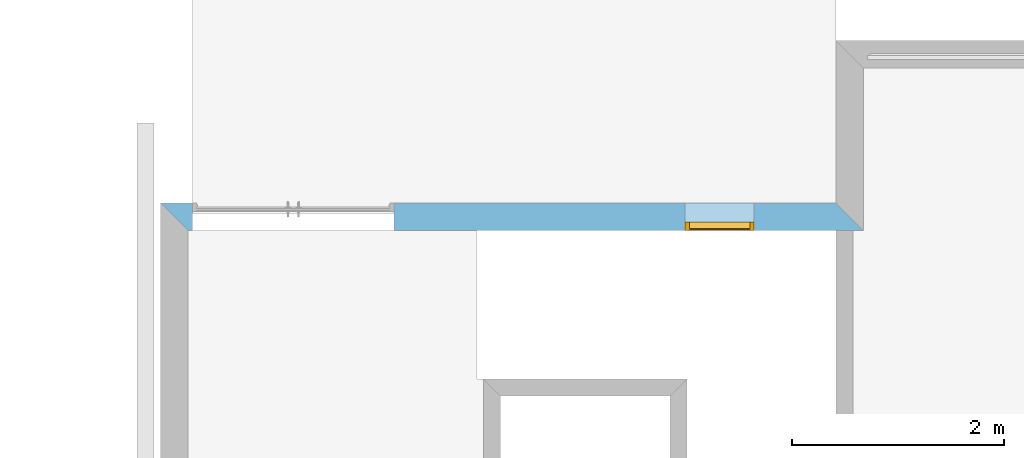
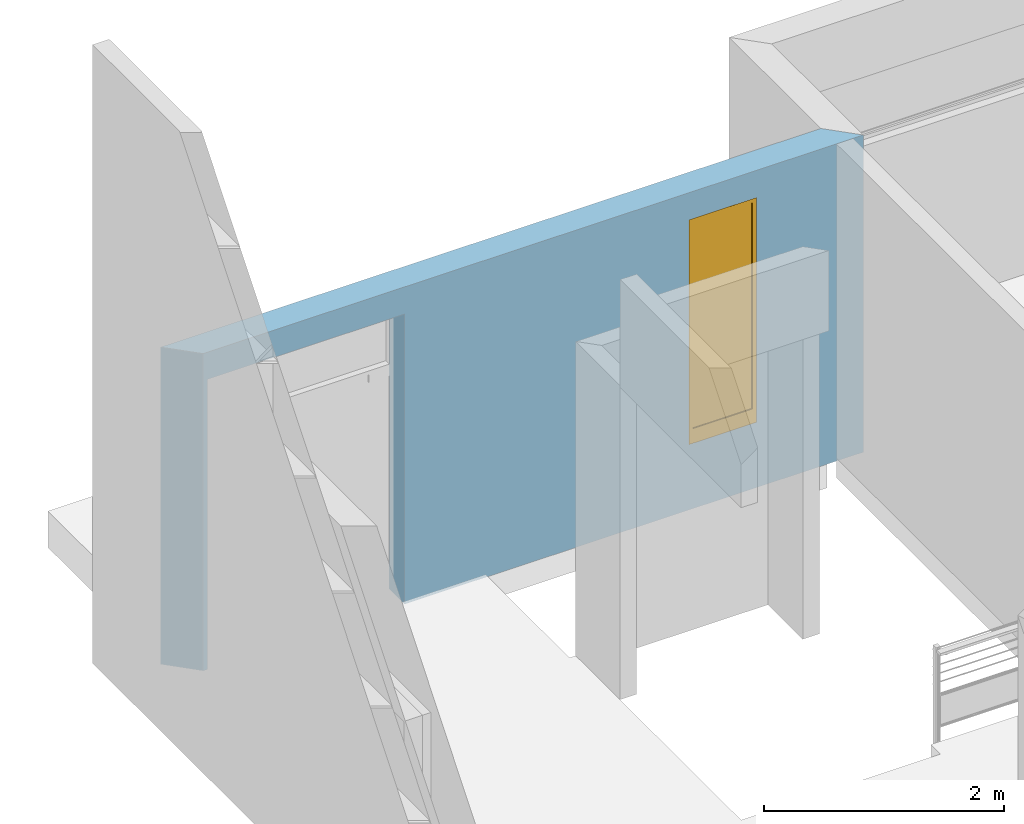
# One storey, part 10 of 14: 1 window, 2 openings, plus 1 element that does not belong to this part.
"""IFC2X3 building model written with IfcOpenShell, lengths in metres."""

from ifc_helpers import new_model, entity, si_unit, converted_unit, money_unit, direction, frame, origin_with_axes, place, context, subcontext, project, spatial, polyline, outline, extrude, faceted_brep, material, layer, layer_set, layer_usage, type_object, element, fill, save


model = new_model("IFC2X3")

# Units and contexts
model_context = context("Model", 3, precision=1e-05, world=origin_with_axes(), true_north=direction((0.0, 1.0)))
body_context = subcontext(model_context, "Body", "Model", "MODEL_VIEW")
ifc_project = project(units=[si_unit("LENGTHUNIT", "METRE"), si_unit("AREAUNIT", "SQUARE_METRE"), si_unit("VOLUMEUNIT", "CUBIC_METRE"), converted_unit("PLANEANGLEUNIT", "DEGREE", entity("IfcPlaneAngleMeasure", 0.0174532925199), si_unit("PLANEANGLEUNIT", "RADIAN"), dimensions=[0, 0, 0, 0, 0, 0, 0]), si_unit("SOLIDANGLEUNIT", "STERADIAN"), money_unit("EUR"), converted_unit("TIMEUNIT", "Year", entity("IfcTimeMeasure", 31556926.0), si_unit("TIMEUNIT", "SECOND"), dimensions=[0, 0, 0, 0, 0, 0, 0]), si_unit("MASSUNIT", "GRAM"), si_unit("THERMODYNAMICTEMPERATUREUNIT", "DEGREE_CELSIUS"), si_unit("LUMINOUSINTENSITYUNIT", "LUMEN")], contexts=[model_context])

# Site, building, storey
site_placement = place(None, origin_with_axes())
site = spatial("IfcSite", under=ifc_project, at=site_placement, Name="Site", CompositionType="ELEMENT")
building_placement = place(site_placement, origin_with_axes())
building = spatial("IfcBuilding", under=site, at=building_placement, Name="Bâtiment", CompositionType="ELEMENT")
storey_placement = place(building_placement, frame((0.0, 0.0, 3.0), z_axis=(0.0, 0.0, 1.0), x_axis=(1.0, 0.0, 0.0)))
storey = spatial("IfcBuildingStorey", under=building, at=storey_placement, Name="NIVEAU HAUT ENTRÉE", CompositionType="ELEMENT", Elevation=3.0)

# Wall, openings, window
ifc_material_1 = material(Name="Hachure solide* 3992800808")
ifc_layer_1 = layer(ifc_material_1, 0.02, ventilated="UNKNOWN")
ifc_material_2 = material(Name="Empty Fill 290923149")
ifc_layer_2 = layer(ifc_material_2, 0.08, ventilated="UNKNOWN")
ifc_material_3 = material(Name="Hachure solide* 2593434267")
ifc_layer_3 = layer(ifc_material_3, 0.16, ventilated="UNKNOWN")
ifc_layer_set = layer_set([ifc_layer_1, ifc_layer_2, ifc_layer_3], Name="•GYMN 16+10")
ifc_layer_usage = layer_usage(ifc_layer_set, "AXIS2", "POSITIVE", -0.26)
wall_type = type_object("IfcWallType", Name="•GYMN 16+10 260", PredefinedType="NOTDEFINED")
wall_placement = place(storey_placement, frame((45.478457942, 20.228815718, -0.03), z_axis=(0.0, 0.0, 1.0), x_axis=(1.0, 0.0, 0.0)))
wall = element("IfcWallStandardCase", 1, at=wall_placement, inside=storey, type_object=wall_type, material=ifc_layer_usage, Name="Mur-002", context=body_context, shape_type="SweptSolid", body=[
    extrude(outline(polyline([(0.26, -0.26), (6.62, -0.26), (6.36, 0.0), (0.0, 0.0), (0.26, -0.26)])), origin_with_axes(), (0.0, 0.0, 1.0), 3.23),
])
opening_1_placement = place(wall_placement, frame((5.265, 0.0, 0.665078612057), z_axis=(0.0, 0.0, 1.0), x_axis=(1.0, 0.0, 0.0)))
opening_1 = element("IfcOpeningElement", 2, at=opening_1_placement, cuts=wall, Name="Fen-001", context=body_context, shape_type="SweptSolid", body=[
    extrude(outline(polyline([(0.325, -2.288652), (0.325, 0.0), (-0.325, 0.0), (-0.325, -2.288652), (0.325, -2.288652)])), frame((0.0, -0.26, 0.0), z_axis=(0.0, -1.0, 0.0), x_axis=(-1.0, 0.0, 0.0)), (0.0, 0.0, 1.0), 0.26),
    extrude(outline(polyline([(0.325, 0.0), (0.325, 2.288652), (-0.325, 2.288652), (-0.325, 0.0), (0.325, 0.0)])), frame((0.0, -0.26, 0.0), z_axis=(0.0, 1.0, 0.0), x_axis=(-1.0, 0.0, 0.0)), (0.0, 0.0, 1.0), 0.26),
])
opening_2_placement = place(wall_placement, frame((1.25, 0.0, 0.0), z_axis=(0.0, 0.0, 1.0), x_axis=(1.0, 0.0, 0.0)))
element("IfcOpeningElement", 3, at=opening_2_placement, cuts=wall, Name="Por-014", context=body_context, shape_type="SweptSolid", body=[
    extrude(outline(polyline([(-0.95, 0.0), (-0.95, -2.95373200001), (0.95, -2.95373200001), (0.95, 0.0), (-0.95, 0.0)])), frame((0.0, 0.0, 0.0), z_axis=(0.0, 1.0, 0.0), x_axis=(1.0, 0.0, 0.0)), (0.0, 0.0, 1.0), 0.26),
    extrude(outline(polyline([(-0.95, 2.95373200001), (-0.95, 0.0), (0.95, 0.0), (0.95, 2.95373200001), (-0.95, 2.95373200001)])), frame((0.0, 0.0, 0.0), z_axis=(0.0, -1.0, 0.0), x_axis=(1.0, 0.0, 0.0)), (0.0, 0.0, 1.0), 0.26),
])
ifc_material_4 = material(Name="Sans Trame")
window_style = type_object("IfcWindowStyle", Name="F Devanture 3 10", ConstructionType="NOTDEFINED", OperationType="USERDEFINED", ParameterTakesPrecedence=False, Sizeable=False)
window_placement = place(opening_1_placement, frame((0.325, 0.0, 0.0), z_axis=(0.0, 0.0, 1.0), x_axis=(-1.0, 0.0, 0.0)))
window = element("IfcWindow", 4, at=window_placement, inside=storey, type_object=window_style, material=ifc_material_4, Name="Fen-001", OverallHeight=2.28865, OverallWidth=0.65, context=body_context, shape_type="Brep", body=[
    faceted_brep([(0.0, 0.26, 2.24865300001), (0.0, 0.26, 0.150000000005), (0.0, 0.18, 0.150000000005), (0.0, 0.18, 2.24865300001), (0.04, 0.26, 2.24865300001), (0.04, 0.26, 0.150000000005), (0.04, 0.18, 0.150000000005), (0.04, 0.18, 2.24865300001)], [[[0, 1, 2, 3]], [[0, 4, 5, 1]], [[1, 5, 6, 2]], [[3, 2, 6, 7]], [[4, 0, 3, 7]], [[5, 4, 7, 6]]]),
    faceted_brep([(0.65, 0.26, 0.150000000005), (0.65, 0.26, 2.24865300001), (0.65, 0.18, 2.24865300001), (0.65, 0.18, 0.150000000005), (0.61, 0.26, 0.150000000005), (0.61, 0.26, 2.24865300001), (0.61, 0.18, 2.24865300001), (0.61, 0.18, 0.150000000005)], [[[0, 1, 2, 3]], [[0, 4, 5, 1]], [[1, 5, 6, 2]], [[3, 2, 6, 7]], [[4, 0, 3, 7]], [[5, 4, 7, 6]]]),
    faceted_brep([(0.65, 0.26, 2.28865300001), (0.0, 0.26, 2.28865300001), (0.0, 0.18, 2.28865300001), (0.65, 0.18, 2.28865300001), (0.65, 0.26, 2.24865300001), (0.61, 0.26, 2.24865300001), (0.04, 0.26, 2.24865300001), (0.0, 0.26, 2.24865300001), (0.0, 0.18, 2.24865300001), (0.04, 0.18, 2.24865300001), (0.61, 0.18, 2.24865300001), (0.65, 0.18, 2.24865300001)], [[[0, 1, 2, 3]], [[0, 4, 5, 6, 7, 1]], [[1, 7, 8, 2]], [[3, 2, 8, 9, 10, 11]], [[4, 0, 3, 11]], [[5, 4, 11, 10]], [[6, 5, 10, 9]], [[7, 6, 9, 8]]]),
    faceted_brep([(0.65, 0.26, 0.150000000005), (0.61, 0.26, 0.150000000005), (0.61, 0.18, 0.150000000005), (0.65, 0.18, 0.150000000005), (0.65, 0.26, 0.0), (0.0, 0.26, 0.0), (0.0, 0.26, 0.150000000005), (0.04, 0.26, 0.150000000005), (0.04, 0.18, 0.150000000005), (0.0, 0.18, 0.150000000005), (0.0, 0.18, 0.0), (0.65, 0.18, 0.0)], [[[0, 1, 2, 3]], [[0, 4, 5, 6, 7, 1]], [[1, 7, 8, 2]], [[3, 2, 8, 9, 10, 11]], [[4, 0, 3, 11]], [[5, 4, 11, 10]], [[6, 5, 10, 9]], [[7, 6, 9, 8]]]),
    faceted_brep([(0.04, 0.25, 0.150000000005), (0.61, 0.25, 0.150000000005), (0.61, 0.24, 0.150000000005), (0.04, 0.24, 0.150000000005), (0.04, 0.25, 2.24865300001), (0.61, 0.25, 2.24865300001), (0.61, 0.24, 2.24865300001), (0.04, 0.24, 2.24865300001)], [[[0, 1, 2, 3]], [[0, 4, 5, 1]], [[1, 5, 6, 2]], [[3, 2, 6, 7]], [[4, 0, 3, 7]], [[5, 4, 7, 6]]]),
])
fill(opening_1, window)

save(model, "model.ifc")
